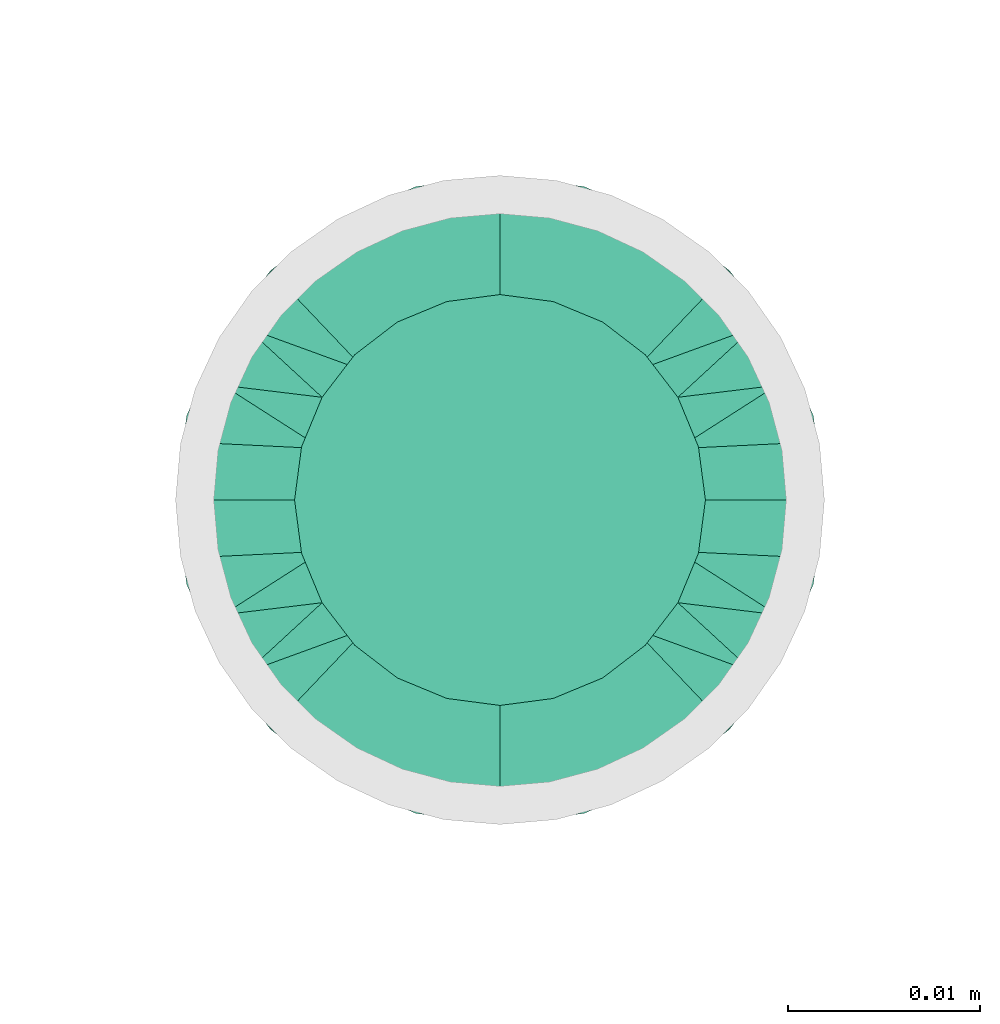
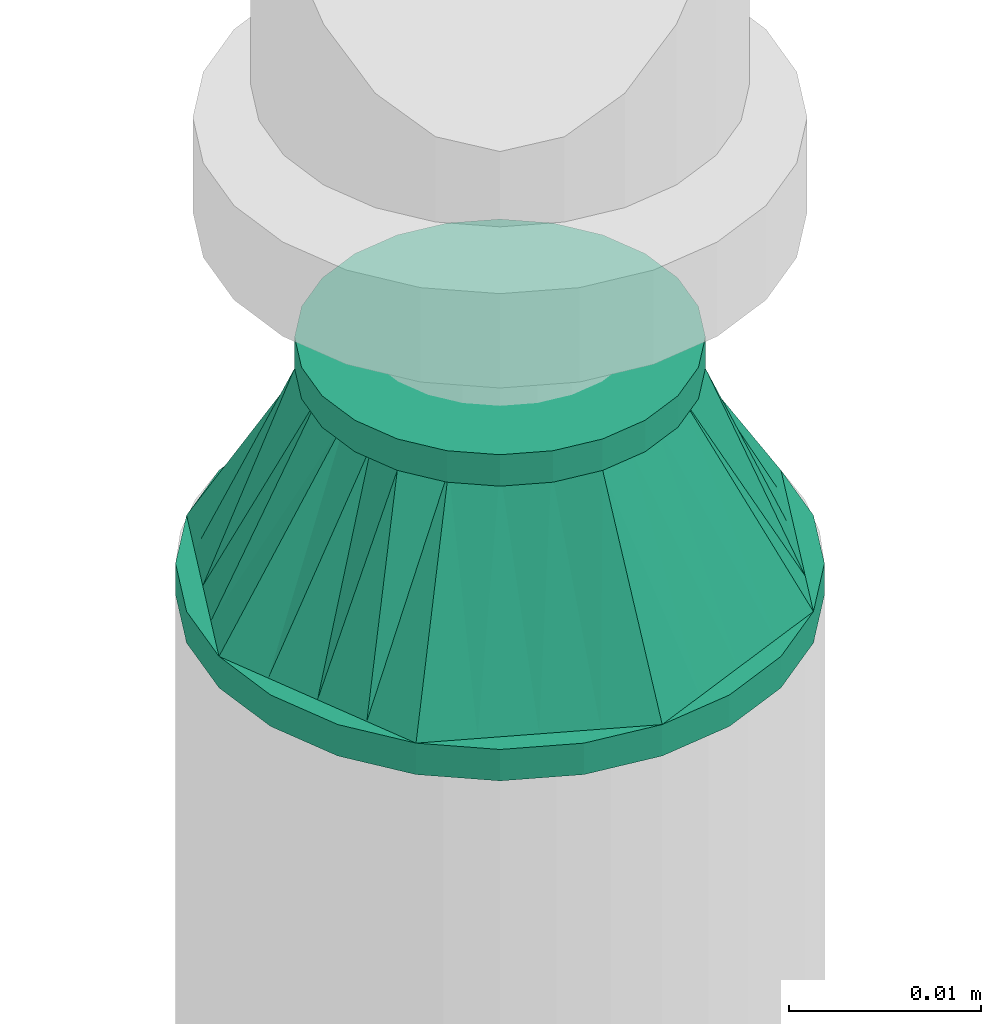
# One storey, part 17 of 44: 1 flow fitting.
"""IFC2X3 building model written with IfcOpenShell, lengths in millimetres."""

from ifc_helpers import new_model, entity, si_unit, converted_unit, derived_unit, direction, frame, origin_with_axes, place, context, subcontext, project, spatial, open_shell, surface_model, source, transform, mapped, type_object, element, save


model = new_model("IFC2X3")

# Units and contexts
model_context = context("Model", 3, precision=0.01, world=frame((0.0, 4.29681676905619e-09, 0.0)), true_north=direction((4.01073788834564e-13, 1.0)))
plan_context = context("Plan", 3, precision=0.01, world=frame((0.0, 4.29681676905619e-09, 0.0)), true_north=direction((4.01073788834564e-13, 1.0)))
body_context = subcontext(model_context, "Body", "Model", "MODEL_VIEW")
ifc_project = project(units=[converted_unit("PLANEANGLEUNIT", "DEGREE", entity("IfcPositiveLengthMeasure", 0.0174532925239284), si_unit("PLANEANGLEUNIT", "RADIAN"), dimensions=[0, 0, 0, 0, 0, 0, 0]), si_unit("AREAUNIT", "SQUARE_METRE"), si_unit("LENGTHUNIT", "METRE", prefix="MILLI"), si_unit("MASSUNIT", "GRAM", prefix="KILO"), si_unit("POWERUNIT", "WATT"), si_unit("PRESSUREUNIT", "PASCAL"), si_unit("FORCEUNIT", "NEWTON", prefix="KILO"), si_unit("ELECTRICVOLTAGEUNIT", "VOLT"), si_unit("ELECTRICCURRENTUNIT", "AMPERE"), si_unit("THERMODYNAMICTEMPERATUREUNIT", "DEGREE_CELSIUS"), si_unit("TIMEUNIT", "SECOND"), si_unit("VOLUMEUNIT", "CUBIC_METRE"), derived_unit("LINEARVELOCITYUNIT", [(si_unit("LENGTHUNIT", "METRE"), 1), (si_unit("TIMEUNIT", "SECOND"), -1)]), derived_unit("VOLUMETRICFLOWRATEUNIT", [(si_unit("VOLUMEUNIT", "CUBIC_METRE"), 1), (si_unit("TIMEUNIT", "SECOND"), -1)]), derived_unit("THERMALTRANSMITTANCEUNIT", [(si_unit("POWERUNIT", "WATT"), 1), (si_unit("THERMODYNAMICTEMPERATUREUNIT", "KELVIN"), -1), (si_unit("AREAUNIT", "SQUARE_METRE"), -1)]), derived_unit("SOUNDPRESSUREUNIT", [(si_unit("PRESSUREUNIT", "PASCAL"), 1)])], contexts=[model_context, plan_context])

# Site, building, storey
site_placement = place(None, frame((0.0, -4.29681676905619e-09, 0.0), z_axis=(0.0, 0.0, 1.0), x_axis=(1.0, 0.0, 0.0)))
site = spatial("IfcSite", under=ifc_project, at=site_placement, CompositionType="ELEMENT")
building_placement = place(site_placement, frame((0.0, 4.29681676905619e-09, 0.0), z_axis=(0.0, 0.0, 1.0), x_axis=(1.0, 0.0, 0.0)))
building = spatial("IfcBuilding", under=site, at=building_placement, Name="mc-building", CompositionType="ELEMENT")
storey_placement = place(building_placement, frame((0.0, 0.0, 207370.0), z_axis=(0.0, 0.0, 1.0), x_axis=(1.0, 0.0, 0.0)))
storey = spatial("IfcBuildingStorey", under=building, at=storey_placement, Name="Nivå E", CompositionType="ELEMENT", Elevation=207370.0)

# Flow fitting
pipe_fitting_type = type_object("IfcPipeFittingType", Name="magi_pipe_fe_reducer_centric_short_NOR", PredefinedType="TRANSITION")
shared_shape = source(origin_with_axes(), body_context, "Body", "SurfaceModel", [
    surface_model("IfcShellBasedSurfaceModel", [(-2.0, -7.56604, -7.56604), (-2.0, -10.33541, -2.76936), (-2.0, -5.35, -9.26647), (-2.0, 5.35, -9.26647), (-2.0, 10.33541, -2.76936), (-2.0, 7.56604, -7.56604), (12.4, 11.9501, 11.9501), (12.4, 0.0, 16.9), (12.4, 11.9501, -11.9501), (12.4, 16.9, 0.0), (0.0, -10.7, 0.0), (0.0, -5.35, 9.26647), (0.0, -5.35, -9.26647), (0.0, 10.7, 0.0), (12.4, 15.66253, -2.98753), (12.4, 8.96258, -13.18758), (0.0, 6.6875, -6.94985), (12.4, -15.66253, -2.98753), (12.4, -16.9, 0.0), (12.4, 5.97505, -14.42505), (0.0, 5.35, -9.26647), (12.4, 14.42505, -5.97505), (0.0, 8.025, -4.63324), (0.0, 9.3625, -2.31662), (0.0, -9.3625, -2.31662), (0.0, -8.025, -4.63324), (12.4, -14.42505, -5.97505), (12.4, 13.18758, -8.96258), (12.4, -13.18758, -8.96258), (12.4, -11.9501, -11.9501), (0.0, -6.6875, -6.94985), (12.4, -8.96258, -13.18758), (12.4, -5.97505, -14.42505), (12.4, -15.66253, 2.98753), (12.4, -8.96258, 13.18758), (0.0, -6.6875, 6.94985), (12.4, -11.9501, 11.9501), (12.4, 15.66253, 2.98753), (12.4, -5.97505, 14.42505), (12.4, -14.42505, 5.97505), (0.0, -8.025, 4.63324), (0.0, -9.3625, 2.31662), (0.0, 9.3625, 2.31662), (0.0, 8.025, 4.63324), (12.4, 14.42505, 5.97505), (12.4, -13.18758, 8.96258), (12.4, 13.18758, 8.96258), (0.0, 6.6875, 6.94985), (12.4, 8.96258, 13.18758), (0.0, 5.35, 9.26647), (12.4, 5.97505, 14.42505), (14.4, 4.37404, -16.32415), (14.4, 8.45, -14.63583), (14.4, 11.9501, -11.9501), (14.4, -8.45, -14.63583), (14.4, 16.32415, -4.37404), (14.4, 16.32415, 4.37404), (14.4, 14.63583, -8.45), (14.4, 0.0, -16.9), (14.4, -4.37404, -16.32415), (14.4, -11.9501, -11.9501), (14.4, -16.32415, -4.37404), (14.4, -14.63583, -8.45), (14.4, -16.32415, 4.37404), (14.4, 16.9, 0.0), (14.4, 14.63583, 8.45), (14.4, 11.9501, 11.9501), (14.4, 4.37404, 16.32415), (14.4, 8.45, 14.63583), (14.4, 0.0, 16.9), (14.4, -14.63583, 8.45), (14.4, -16.9, 0.0), (14.4, -8.45, 14.63583), (14.4, -11.9501, 11.9501), (14.4, -4.37404, 16.32415), (12.4, 4.37404, 16.32415), (12.4, -14.63583, 8.45), (12.4, 16.32415, 4.37404), (12.4, 8.45, 14.63583), (12.4, 14.63583, 8.45), (12.4, -8.45, 14.63583), (12.4, -4.37404, 16.32415), (12.4, -16.32415, 4.37404), (12.4, -16.32415, -4.37404), (12.4, -8.45, -14.63583), (12.4, 16.32415, -4.37404), (12.4, 14.63583, -8.45), (12.4, 8.45, -14.63583), (12.4, 4.37404, -16.32415), (12.4, 0.0, -16.9), (12.4, -14.63583, -8.45), (12.4, -4.37404, -16.32415), (-2.0, 2.76936, 10.33541), (-2.0, 0.0, 10.7), (-2.0, 5.35, 9.26647), (-2.0, 7.56604, 7.56604), (-2.0, 9.26647, 5.35), (-2.0, 10.33541, 2.76936), (-2.0, -10.33541, 2.76936), (-2.0, -2.76936, 10.33541), (-2.0, -7.56604, 7.56604), (-2.0, -5.35, 9.26647), (-2.0, -9.26647, 5.35), (-2.0, -10.7, 0.0), (-2.0, 9.26647, -5.35), (-2.0, 2.76936, -10.33541), (-2.0, -9.26647, -5.35), (-2.0, 0.0, -10.7), (-2.0, -2.76936, -10.33541), (-2.0, 10.7, 0.0), (0.0, 0.0, -10.7), (0.0, 2.76936, -10.33541), (0.0, 10.33541, -2.76936), (0.0, 7.56604, -7.56604), (0.0, -10.33541, -2.76936), (0.0, 9.26647, -5.35), (0.0, 0.0, 10.7), (0.0, -2.76936, -10.33541), (0.0, -7.56604, -7.56604), (0.0, -9.26647, -5.35), (0.0, 10.33541, 2.76936), (0.0, 9.26647, 5.35), (0.0, 7.56604, 7.56604), (0.0, 2.76936, 10.33541), (0.0, -7.56604, 7.56604), (0.0, -10.33541, 2.76936), (0.0, -9.26647, 5.35), (0.0, -2.76936, 10.33541), (0.0, 2.675, -9.26647), (0.0, -2.675, -9.26647), (12.4, 2.98753, -15.66253), (0.0, 0.0, -9.26647), (12.4, -2.98753, -15.66253), (0.0, -2.675, 9.26647), (0.0, 2.675, 9.26647), (12.4, -2.98753, 15.66253), (0.0, 0.0, 9.26647), (12.4, 2.98753, 15.66253)], [open_shell([[[0, 1, 2]], [[3, 4, 5]], [[6, 7, 8]], [[8, 9, 6]], [[10, 11, 12]], [[13, 9, 14]], [[15, 16, 8]], [[17, 18, 10]], [[15, 19, 20]], [[21, 22, 23]], [[24, 25, 26]], [[22, 21, 27]], [[28, 26, 25]], [[29, 30, 31]], [[12, 32, 31]], [[10, 18, 33]], [[34, 35, 36]], [[37, 9, 13]], [[34, 38, 11]], [[39, 40, 41]], [[42, 43, 44]], [[40, 39, 45]], [[46, 44, 43]], [[6, 47, 48]], [[49, 50, 48]], [[51, 52, 53]], [[54, 51, 53]], [[53, 55, 56]], [[55, 53, 57]], [[53, 56, 54]], [[58, 54, 59]], [[58, 51, 54]], [[60, 61, 62]], [[61, 60, 54]], [[54, 63, 61]], [[56, 55, 64]], [[56, 65, 66]], [[56, 66, 67]], [[67, 63, 54]], [[67, 66, 68]], [[63, 67, 69]], [[69, 70, 63]], [[71, 61, 63]], [[70, 72, 73]], [[70, 69, 72]], [[72, 69, 74]], [[54, 56, 67]], [[75, 76, 7]], [[77, 75, 78]], [[6, 79, 77]], [[6, 77, 78]], [[76, 75, 77]], [[80, 76, 36]], [[80, 81, 7]], [[7, 76, 80]], [[82, 76, 77]], [[82, 83, 18]], [[82, 77, 84]], [[77, 85, 8]], [[8, 85, 86]], [[8, 87, 88]], [[84, 77, 8]], [[88, 89, 8]], [[83, 29, 90]], [[29, 83, 84]], [[84, 89, 91]], [[83, 82, 84]], [[8, 89, 84]], [[85, 77, 9]], [[83, 61, 18]], [[90, 62, 83]], [[54, 29, 84]], [[90, 29, 60]], [[59, 84, 91]], [[83, 62, 61]], [[61, 71, 18]], [[59, 54, 84]], [[60, 29, 54]], [[60, 62, 90]], [[58, 59, 91]], [[91, 89, 58]], [[88, 51, 89]], [[87, 52, 88]], [[57, 8, 86]], [[87, 8, 53]], [[55, 86, 85]], [[87, 53, 52]], [[52, 51, 88]], [[64, 55, 85]], [[57, 86, 55]], [[57, 53, 8]], [[9, 64, 85]], [[89, 51, 58]], [[77, 56, 9]], [[79, 65, 77]], [[68, 6, 78]], [[79, 6, 66]], [[67, 78, 75]], [[77, 65, 56]], [[56, 64, 9]], [[67, 68, 78]], [[66, 6, 68]], [[66, 65, 79]], [[69, 67, 75]], [[75, 7, 69]], [[81, 74, 7]], [[80, 72, 81]], [[70, 36, 76]], [[80, 36, 73]], [[63, 76, 82]], [[80, 73, 72]], [[72, 74, 81]], [[71, 63, 82]], [[70, 76, 63]], [[70, 73, 36]], [[18, 71, 82]], [[7, 74, 69]], [[92, 1, 93]], [[94, 1, 92]], [[95, 96, 97]], [[95, 97, 94]], [[98, 93, 1]], [[99, 100, 101]], [[99, 93, 100]], [[100, 98, 102]], [[93, 98, 100]], [[98, 1, 103]], [[94, 97, 1]], [[1, 97, 4]], [[5, 4, 104]], [[4, 3, 1]], [[105, 1, 3]], [[1, 0, 106]], [[2, 107, 108]], [[2, 1, 105]], [[105, 107, 2]], [[4, 97, 109]], [[20, 110, 111]], [[112, 20, 113]], [[114, 20, 112]], [[112, 113, 115]], [[116, 114, 112]], [[110, 12, 117]], [[110, 20, 12]], [[118, 114, 119]], [[114, 118, 12]], [[20, 114, 12]], [[112, 13, 120]], [[120, 121, 122]], [[120, 122, 123]], [[116, 112, 123]], [[123, 122, 49]], [[116, 124, 114]], [[125, 124, 126]], [[10, 114, 125]], [[124, 127, 11]], [[125, 114, 124]], [[127, 124, 116]], [[123, 112, 120]], [[1, 114, 103]], [[106, 119, 1]], [[12, 0, 2]], [[106, 0, 118]], [[117, 2, 108]], [[1, 119, 114]], [[114, 10, 103]], [[117, 12, 2]], [[118, 0, 12]], [[118, 119, 106]], [[110, 117, 108]], [[108, 107, 110]], [[105, 111, 107]], [[3, 20, 105]], [[115, 5, 104]], [[3, 5, 113]], [[112, 104, 4]], [[3, 113, 20]], [[20, 111, 105]], [[13, 112, 4]], [[115, 104, 112]], [[115, 113, 5]], [[109, 13, 4]], [[107, 111, 110]], [[97, 120, 109]], [[96, 121, 97]], [[49, 95, 94]], [[96, 95, 122]], [[123, 94, 92]], [[97, 121, 120]], [[120, 13, 109]], [[123, 49, 94]], [[122, 95, 49]], [[122, 121, 96]], [[116, 123, 92]], [[92, 93, 116]], [[99, 127, 93]], [[101, 11, 99]], [[126, 100, 102]], [[101, 100, 124]], [[125, 102, 98]], [[101, 124, 11]], [[11, 127, 99]], [[10, 125, 98]], [[126, 102, 125]], [[126, 124, 100]], [[103, 10, 98]], [[93, 127, 116]], [[18, 7, 36]], [[18, 29, 8]], [[89, 8, 29]], [[18, 8, 7]], [[13, 11, 49]], [[13, 20, 12]], [[13, 12, 11]], [[24, 26, 17]], [[10, 24, 17]], [[16, 15, 20]], [[30, 12, 31]], [[23, 14, 21]], [[19, 128, 20]], [[27, 8, 16]], [[32, 12, 129]], [[30, 28, 25]], [[130, 131, 128]], [[129, 132, 32]], [[16, 22, 27]], [[13, 14, 23]], [[128, 19, 130]], [[130, 89, 131]], [[131, 132, 129]], [[89, 132, 131]], [[28, 30, 29]], [[42, 44, 37]], [[13, 42, 37]], [[35, 34, 11]], [[47, 49, 48]], [[41, 33, 39]], [[38, 133, 11]], [[45, 36, 35]], [[50, 49, 134]], [[47, 46, 43]], [[135, 136, 133]], [[134, 137, 50]], [[35, 40, 45]], [[10, 33, 41]], [[133, 38, 135]], [[135, 7, 136]], [[136, 137, 134]], [[7, 137, 136]], [[46, 47, 6]]])]),
])
flow_fitting_placement = place(storey_placement, frame((524500.5875, 453009.83177, 3040.00555), z_axis=(1.0, 0.0, 0.0), x_axis=(0.0, 0.0, -1.0)))
element("IfcFlowFitting", 1, at=flow_fitting_placement, inside=storey, type_object=pipe_fitting_type, Name="magi_pipe_fe_reducer_centric_short_NOR", context=body_context, shape_type="MappedRepresentation", body=[
    mapped(shared_shape, transform((0.0, 0.0, 0.0), scale=1.0)),
])

save(model, "model.ifc")
